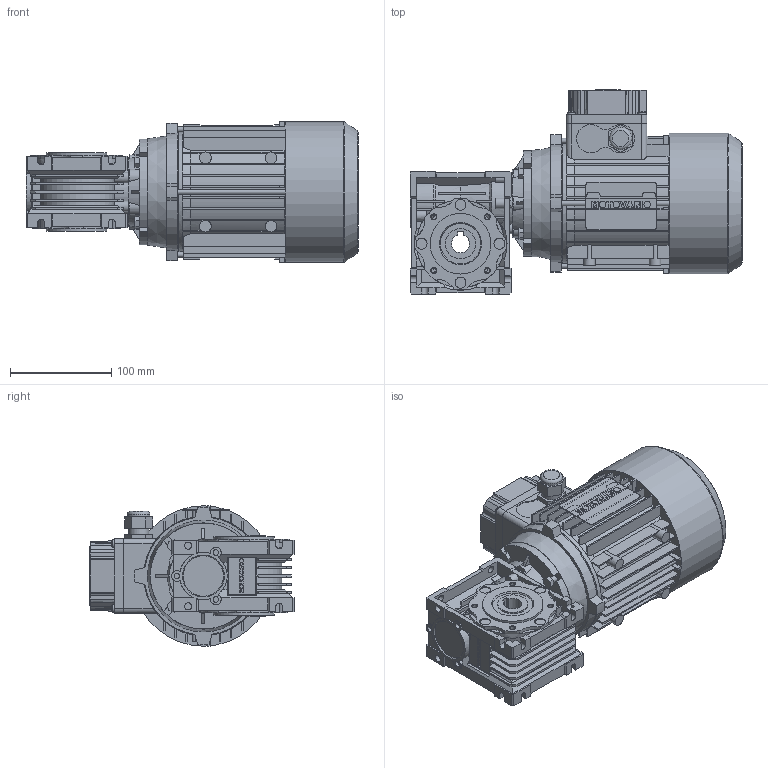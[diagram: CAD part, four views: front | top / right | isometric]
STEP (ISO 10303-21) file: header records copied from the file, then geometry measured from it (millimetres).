
FILE_DESCRIPTION(/* description */ ('STEP AP203'),/* implementation_level */ '2;1');
FILE_NAME(/* name */ 'NMRV0401141811100300T071-1(-----IC411NONO------STD)',/* time_stamp */ '2023-05-03T12:10:11+02:00',/* author */ ('License CC BY-ND 4.0'),/* organization */ ('CADENAS'),/* preprocessor_version */ 'ST-DEVELOPER v19.3',/* originating_system */ 'PARTsolutions',/* authorisation */ ' ');
FILE_SCHEMA (('CONFIG_CONTROL_DESIGN'));
Length unit declared in the file: millimetre
Products named in the file (11): NMRV0401141811100300T071-1(-----IC411NONO------STD); ALBERO_T07114X30NO; PRESSACAVO_2; COPRIMORSETTIERA_T071A002; COPRIVENTOLA_T_071_IC411_NO_-_-_-_-_STD; CARCASSA_T-071IC411B1414X30NONO--; FLANGIA_T071B14-; 40-71 B14; VB 040-14 (14); 040-18 (78)alc-n; Gear unit 40
Assembly tree (10 placements, depth 2):
  NMRV0401141811100300T071-1(-----IC411NONO------STD)
    ALBERO_T07114X30NO
    PRESSACAVO_2
    COPRIMORSETTIERA_T071A002
    COPRIVENTOLA_T_071_IC411_NO_-_-_-_-_STD
    CARCASSA_T-071IC411B1414X30NONO--
    FLANGIA_T071B14-
    40-71 B14
    VB 040-14 (14)
    040-18 (78)alc-n
    Gear unit 40
Bounding box: 328.5 x 202.5 x 139.37 mm (x, y, z)
Volume: 3716115.1 mm3; surface area: 438305.1 mm2
Topology: 10 solids, 10 shells, 2495 faces, 6956 edges, 4588 vertices
Faces by surface type: plane 1460, cylinder 920, cone 106, torus 5, sphere 4
Full cylindrical faces by diameter (mm): 1.8 x1, 2.02 x1, 4.134 x1, 4.917 x8, 5 x4, 5.3 x1, 5.5 x4, 5.55 x3, 6 x4, 7 x6, 8 x4, 10 x6, 10.8 x4, 11 x6, 11.5 x4, 14 x1, 15 x1, 16 x1, 20 x2, 22 x1, 23 x2, 28 x1, 30 x2, 35 x1, 36 x1, 40 x1, 47 x1, 60 x2, 68 x1, 70 x2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
Entity records: 86073 total; most frequent: CARTESIAN_POINT 15005, DIRECTION 13747, ORIENTED_EDGE 13592, EDGE_CURVE 6796, AXIS2_PLACEMENT_3D 4796, VERTEX_POINT 4555, LINE 4155, VECTOR 4155
